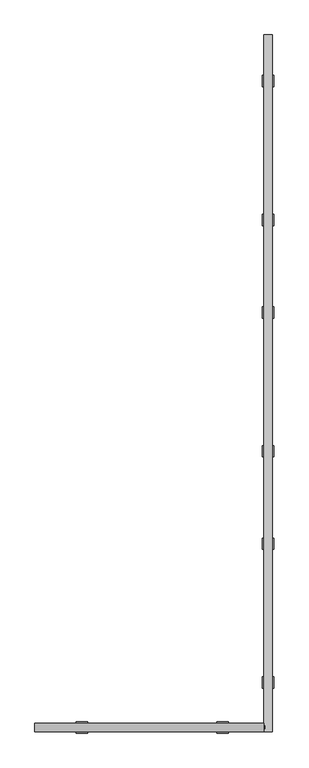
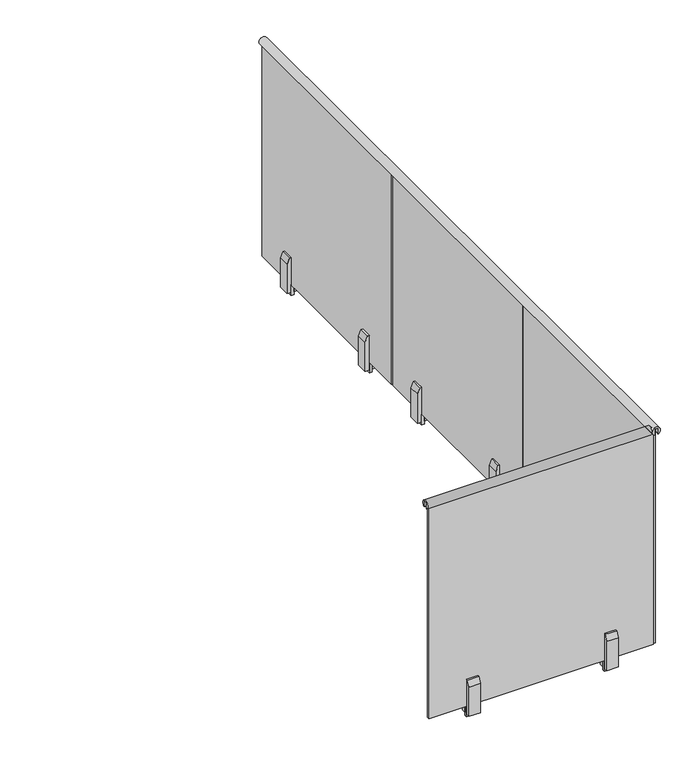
"""IFC4 building model written with IfcOpenShell, lengths in millimetres: railing geometry, VIVA-VISIO-Glass-Steel Surface Mount-Straight."""

from ifc_helpers import new_model, si_unit, point, frame, frame_2d, origin, place, context, project, spatial, polyline, circle_curve, trimmed, segment, composite_curve, outline, extrude, source, transform, mapped, element, save


def railing_5af45680(model_context):
    return source(origin(), model_context, "Body", "SweptSolid", [
        extrude(outline(composite_curve([segment(trimmed(circle_curve(frame_2d((-21082.8867549, 4113.6774252)), 3.175), [point((-21080.9817549, 4111.1374252))], [point((-21086.0617549, 4113.6774252))], False, "CARTESIAN"), True, "CONTINUOUS"), segment(polyline([(-21086.0617549, 4113.6774252), (-21086.0617549, 4138.215625), (-21098.7617549, 4138.215625), (-21098.7617549, 4113.7552844)]), True, "CONTINUOUS"), segment(trimmed(circle_curve(frame_2d((-21101.9755651, 4113.7552844)), 3.2138103), [point((-21098.7617549, 4113.7552844))], [point((-21103.9164532, 4111.193736))], False, "CARTESIAN"), True, "CONTINUOUS"), segment(trimmed(circle_curve(frame_2d((-21092.4117549, 4126.3774252)), 19.05), [point((-21103.9164532, 4111.193736))], [point((-21080.9817549, 4111.1374252))], False, "CARTESIAN"), True, "CONTINUOUS")], self_intersect=False)), frame((30452.8112561, 0.0, 0.0), z_axis=(1.0, 0.0, 0.0), x_axis=(0.0, 1.0, 0.0)), (0.0, 0.0, 1.0), 1016.0),
        extrude(outline(composite_curve([segment(trimmed(circle_curve(frame_2d((4113.6774252, 31478.3362561)), 3.175), [point((4111.1374252, 31476.4312561))], [point((4113.6774252, 31481.5112561))], False, "CARTESIAN"), True, "CONTINUOUS"), segment(polyline([(4113.6774252, 31481.5112561), (4138.215625, 31481.5112561), (4138.215625, 31494.2112561), (4113.7552844, 31494.2112561)]), True, "CONTINUOUS"), segment(trimmed(circle_curve(frame_2d((4113.7552844, 31497.4250664)), 3.2138103), [point((4113.7552844, 31494.2112561))], [point((4111.193736, 31499.3659544))], False, "CARTESIAN"), True, "CONTINUOUS"), segment(trimmed(circle_curve(frame_2d((4126.3774252, 31487.8612561)), 19.05), [point((4111.193736, 31499.3659544))], [point((4111.1374252, 31476.4312561))], False, "CARTESIAN"), True, "CONTINUOUS")], self_intersect=False)), frame((0.0, -21111.4617549, 0.0), z_axis=(0.0, 1.0, 0.0), x_axis=(0.0, 0.0, 1.0)), (0.0, 0.0, 1.0), 3086.1),
        extrude(outline(polyline([(31481.5112561, -18255.6550882), (31481.5112561, -18204.8550882), (31494.2112561, -18204.8550882), (31494.2112561, -18255.6550882), (31481.5112561, -18255.6550882)])), frame((0.0, 0.0, 3048.0), z_axis=(0.0, 0.0, 1.0), x_axis=(1.0, 0.0, 0.0)), (0.0, 0.0, 1.0), 50.8),
        extrude(outline(polyline([(3062.2875, 31462.4612561), (3062.2875, 31481.5112561), (3228.975, 31481.5112561), (3228.975, 31473.5737561), (3201.9875, 31462.4612561), (3062.2875, 31462.4612561)])), frame((0.0, -18255.6550882, 0.0), z_axis=(0.0, 1.0, 0.0), x_axis=(0.0, 0.0, 1.0)), (0.0, 0.0, 1.0), 50.8),
        extrude(outline(polyline([(3062.2875, 31513.2612561), (3201.9875, 31513.2612561), (3228.975, 31502.1487561), (3228.975, 31494.2112561), (3062.2875, 31494.2112561), (3062.2875, 31513.2612561)])), frame((0.0, -18255.6550882, 0.0), z_axis=(0.0, 1.0, 0.0), x_axis=(0.0, 0.0, 1.0)), (0.0, 0.0, 1.0), 50.8),
        extrude(outline(polyline([(31481.5112561, -19045.2120416), (31481.5112561, -18029.2120416), (31494.2112561, -18029.2120416), (31494.2112561, -19045.2120416), (31481.5112561, -19045.2120416)])), frame((0.0, 0.0, 3098.8), z_axis=(0.0, 0.0, 1.0), x_axis=(1.0, 0.0, 0.0)), (0.0, 0.0, 1.0), 1041.2299252),
        extrude(outline(polyline([(31481.5112561, -18870.3350882), (31481.5112561, -18819.5350882), (31494.2112561, -18819.5350882), (31494.2112561, -18870.3350882), (31481.5112561, -18870.3350882)])), frame((0.0, 0.0, 3048.0), z_axis=(0.0, 0.0, 1.0), x_axis=(1.0, 0.0, 0.0)), (0.0, 0.0, 1.0), 50.8),
        extrude(outline(polyline([(3062.2875, 31462.4612561), (3062.2875, 31481.5112561), (3228.975, 31481.5112561), (3228.975, 31473.5737561), (3201.9875, 31462.4612561), (3062.2875, 31462.4612561)])), frame((0.0, -18870.3350882, 0.0), z_axis=(0.0, 1.0, 0.0), x_axis=(0.0, 0.0, 1.0)), (0.0, 0.0, 1.0), 50.8),
        extrude(outline(polyline([(3062.2875, 31513.2612561), (3201.9875, 31513.2612561), (3228.975, 31502.1487561), (3228.975, 31494.2112561), (3062.2875, 31494.2112561), (3062.2875, 31513.2612561)])), frame((0.0, -18870.3350882, 0.0), z_axis=(0.0, 1.0, 0.0), x_axis=(0.0, 0.0, 1.0)), (0.0, 0.0, 1.0), 50.8),
        extrude(outline(polyline([(31481.5112561, -19280.1217549), (31481.5112561, -19229.3217549), (31494.2112561, -19229.3217549), (31494.2112561, -19280.1217549), (31481.5112561, -19280.1217549)])), frame((0.0, 0.0, 3048.0), z_axis=(0.0, 0.0, 1.0), x_axis=(1.0, 0.0, 0.0)), (0.0, 0.0, 1.0), 50.8),
        extrude(outline(polyline([(3062.2875, 31462.4612561), (3062.2875, 31481.5112561), (3228.975, 31481.5112561), (3228.975, 31473.5737561), (3201.9875, 31462.4612561), (3062.2875, 31462.4612561)])), frame((0.0, -19280.1217549, 0.0), z_axis=(0.0, 1.0, 0.0), x_axis=(0.0, 0.0, 1.0)), (0.0, 0.0, 1.0), 50.8),
        extrude(outline(polyline([(3062.2875, 31513.2612561), (3201.9875, 31513.2612561), (3228.975, 31502.1487561), (3228.975, 31494.2112561), (3062.2875, 31494.2112561), (3062.2875, 31513.2612561)])), frame((0.0, -19280.1217549, 0.0), z_axis=(0.0, 1.0, 0.0), x_axis=(0.0, 0.0, 1.0)), (0.0, 0.0, 1.0), 50.8),
        extrude(outline(polyline([(31481.5112561, -20069.6787083), (31481.5112561, -19053.6787083), (31494.2112561, -19053.6787083), (31494.2112561, -20069.6787083), (31481.5112561, -20069.6787083)])), frame((0.0, 0.0, 3098.8), z_axis=(0.0, 0.0, 1.0), x_axis=(1.0, 0.0, 0.0)), (0.0, 0.0, 1.0), 1041.2299252),
        extrude(outline(polyline([(31481.5112561, -19894.8017549), (31481.5112561, -19844.0017549), (31494.2112561, -19844.0017549), (31494.2112561, -19894.8017549), (31481.5112561, -19894.8017549)])), frame((0.0, 0.0, 3048.0), z_axis=(0.0, 0.0, 1.0), x_axis=(1.0, 0.0, 0.0)), (0.0, 0.0, 1.0), 50.8),
        extrude(outline(polyline([(3062.2875, 31462.4612561), (3062.2875, 31481.5112561), (3228.975, 31481.5112561), (3228.975, 31473.5737561), (3201.9875, 31462.4612561), (3062.2875, 31462.4612561)])), frame((0.0, -19894.8017549, 0.0), z_axis=(0.0, 1.0, 0.0), x_axis=(0.0, 0.0, 1.0)), (0.0, 0.0, 1.0), 50.8),
        extrude(outline(polyline([(3062.2875, 31513.2612561), (3201.9875, 31513.2612561), (3228.975, 31502.1487561), (3228.975, 31494.2112561), (3062.2875, 31494.2112561), (3062.2875, 31513.2612561)])), frame((0.0, -19894.8017549, 0.0), z_axis=(0.0, 1.0, 0.0), x_axis=(0.0, 0.0, 1.0)), (0.0, 0.0, 1.0), 50.8),
        extrude(outline(polyline([(31481.5112561, -20304.5884215), (31481.5112561, -20253.7884215), (31494.2112561, -20253.7884215), (31494.2112561, -20304.5884215), (31481.5112561, -20304.5884215)])), frame((0.0, 0.0, 3048.0), z_axis=(0.0, 0.0, 1.0), x_axis=(1.0, 0.0, 0.0)), (0.0, 0.0, 1.0), 50.8),
        extrude(outline(polyline([(3062.2875, 31462.4612561), (3062.2875, 31481.5112561), (3228.975, 31481.5112561), (3228.975, 31473.5737561), (3201.9875, 31462.4612561), (3062.2875, 31462.4612561)])), frame((0.0, -20304.5884215, 0.0), z_axis=(0.0, 1.0, 0.0), x_axis=(0.0, 0.0, 1.0)), (0.0, 0.0, 1.0), 50.8),
        extrude(outline(polyline([(3062.2875, 31513.2612561), (3201.9875, 31513.2612561), (3228.975, 31502.1487561), (3228.975, 31494.2112561), (3062.2875, 31494.2112561), (3062.2875, 31513.2612561)])), frame((0.0, -20304.5884215, 0.0), z_axis=(0.0, 1.0, 0.0), x_axis=(0.0, 0.0, 1.0)), (0.0, 0.0, 1.0), 50.8),
        extrude(outline(polyline([(31481.5112561, -21094.1453749), (31481.5112561, -20078.1453749), (31494.2112561, -20078.1453749), (31494.2112561, -21094.1453749), (31481.5112561, -21094.1453749)])), frame((0.0, 0.0, 3098.8), z_axis=(0.0, 0.0, 1.0), x_axis=(1.0, 0.0, 0.0)), (0.0, 0.0, 1.0), 1041.2299252),
        extrude(outline(polyline([(31481.5112561, -20919.2684215), (31481.5112561, -20868.4684215), (31494.2112561, -20868.4684215), (31494.2112561, -20919.2684215), (31481.5112561, -20919.2684215)])), frame((0.0, 0.0, 3048.0), z_axis=(0.0, 0.0, 1.0), x_axis=(1.0, 0.0, 0.0)), (0.0, 0.0, 1.0), 50.8),
        extrude(outline(polyline([(3062.2875, 31462.4612561), (3062.2875, 31481.5112561), (3228.975, 31481.5112561), (3228.975, 31473.5737561), (3201.9875, 31462.4612561), (3062.2875, 31462.4612561)])), frame((0.0, -20919.2684215, 0.0), z_axis=(0.0, 1.0, 0.0), x_axis=(0.0, 0.0, 1.0)), (0.0, 0.0, 1.0), 50.8),
        extrude(outline(polyline([(3062.2875, 31513.2612561), (3201.9875, 31513.2612561), (3228.975, 31502.1487561), (3228.975, 31494.2112561), (3062.2875, 31494.2112561), (3062.2875, 31513.2612561)])), frame((0.0, -20919.2684215, 0.0), z_axis=(0.0, 1.0, 0.0), x_axis=(0.0, 0.0, 1.0)), (0.0, 0.0, 1.0), 50.8),
        extrude(outline(polyline([(31260.5312561, -21086.0617549), (31311.3312561, -21086.0617549), (31311.3312561, -21098.7617549), (31260.5312561, -21098.7617549), (31260.5312561, -21086.0617549)])), frame((0.0, 0.0, 3048.0), z_axis=(0.0, 0.0, 1.0), x_axis=(1.0, 0.0, 0.0)), (0.0, 0.0, 1.0), 50.8),
        extrude(outline(polyline([(-21067.0117549, 3062.2875), (-21086.0617549, 3062.2875), (-21086.0617549, 3228.975), (-21078.1242549, 3228.975), (-21067.0117549, 3201.9875), (-21067.0117549, 3062.2875)])), frame((31260.5312561, 0.0, 0.0), z_axis=(1.0, 0.0, 0.0), x_axis=(0.0, 1.0, 0.0)), (0.0, 0.0, 1.0), 50.8),
        extrude(outline(polyline([(-21117.8117549, 3062.2875), (-21117.8117549, 3201.9875), (-21106.6992549, 3228.975), (-21098.7617549, 3228.975), (-21098.7617549, 3062.2875), (-21117.8117549, 3062.2875)])), frame((31260.5312561, 0.0, 0.0), z_axis=(1.0, 0.0, 0.0), x_axis=(0.0, 1.0, 0.0)), (0.0, 0.0, 1.0), 50.8),
        extrude(outline(polyline([(30465.8943027, -21086.0617549), (31481.8943027, -21086.0617549), (31481.8943027, -21098.7617549), (30465.8943027, -21098.7617549), (30465.8943027, -21086.0617549)])), frame((0.0, 0.0, 3098.8), z_axis=(0.0, 0.0, 1.0), x_axis=(1.0, 0.0, 0.0)), (0.0, 0.0, 1.0), 1041.2299252),
        extrude(outline(polyline([(30635.6912561, -21086.0617549), (30686.4912561, -21086.0617549), (30686.4912561, -21098.7617549), (30635.6912561, -21098.7617549), (30635.6912561, -21086.0617549)])), frame((0.0, 0.0, 3048.0), z_axis=(0.0, 0.0, 1.0), x_axis=(1.0, 0.0, 0.0)), (0.0, 0.0, 1.0), 50.8),
        extrude(outline(polyline([(-21067.0117549, 3062.2875), (-21086.0617549, 3062.2875), (-21086.0617549, 3228.975), (-21078.1242549, 3228.975), (-21067.0117549, 3201.9875), (-21067.0117549, 3062.2875)])), frame((30635.6912561, 0.0, 0.0), z_axis=(1.0, 0.0, 0.0), x_axis=(0.0, 1.0, 0.0)), (0.0, 0.0, 1.0), 50.8),
        extrude(outline(polyline([(-21117.8117549, 3062.2875), (-21117.8117549, 3201.9875), (-21106.6992549, 3228.975), (-21098.7617549, 3228.975), (-21098.7617549, 3062.2875), (-21117.8117549, 3062.2875)])), frame((30635.6912561, 0.0, 0.0), z_axis=(1.0, 0.0, 0.0), x_axis=(0.0, 1.0, 0.0)), (0.0, 0.0, 1.0), 50.8),
    ])


if __name__ == "__main__":
    model = new_model("IFC4")
    model_context = context("Model", 3, world=origin())
    ifc_project = project(units=[si_unit("LENGTHUNIT", "METRE", prefix="MILLI")], contexts=[model_context])
    site = spatial("IfcSite", under=ifc_project)
    building = spatial("IfcBuilding", under=site)
    placement = place(None, origin())
    railing_shape = railing_5af45680(model_context)
    element("IfcRailing", 1, ObjectType="VIVA-VISIO-Glass-Steel Surface Mount-Straight", at=placement, inside=building, context=model_context, shape_type="MappedRepresentation", body=[
        mapped(railing_shape, transform((0.0, 0.0, 0.0), x_axis=(1.0, 0.0, 0.0), y_axis=(0.0, 1.0, 0.0), z_axis=(0.0, 0.0, 1.0))),
    ])
    save(model, "model.ifc")
